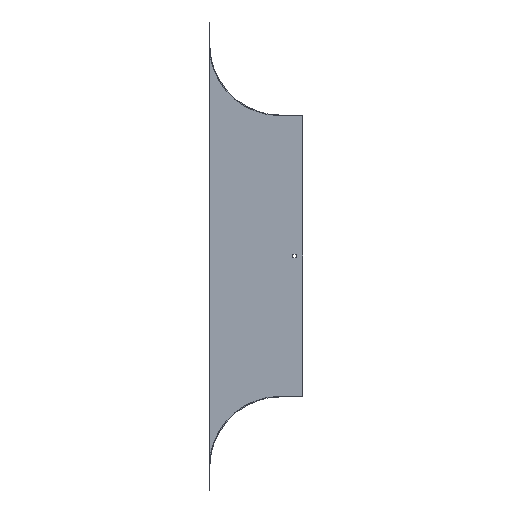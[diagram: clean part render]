
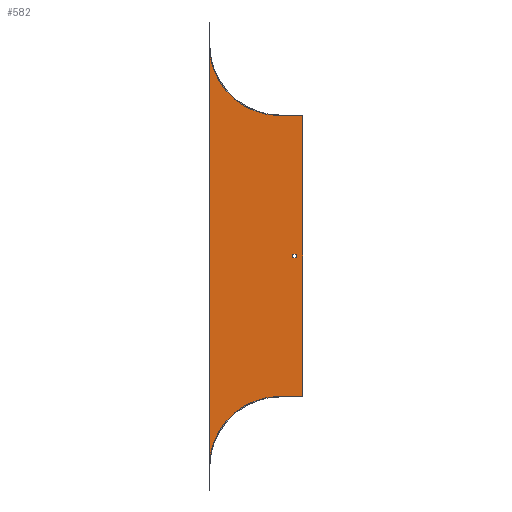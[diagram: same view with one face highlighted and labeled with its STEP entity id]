
A CAD part, front view. The second image highlights one B-rep face of the part: STEP entity #582.
In plain terms, the highlighted planar face has unit normal (0, -1, 0).
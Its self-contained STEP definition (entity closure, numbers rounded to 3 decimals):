
#3 = VECTOR ( 'NONE', #542, 1000. ) ;
#14 = EDGE_CURVE ( 'NONE', #289, #285, #309, .T. ) ;
#29 = VERTEX_POINT ( 'NONE', #452 ) ;
#33 = DIRECTION ( 'NONE',  ( 1., 0., 0. ) ) ;
#36 = EDGE_CURVE ( 'NONE', #585, #127, #178, .T. ) ;
#49 = ORIENTED_EDGE ( 'NONE', *, *, #421, .F. ) ;
#60 = ORIENTED_EDGE ( 'NONE', *, *, #254, .F. ) ;
#61 = FACE_BOUND ( 'NONE', #551, .T. ) ;
#67 = CARTESIAN_POINT ( 'NONE',  ( 21.5, -1., -374. ) ) ;
#74 = CARTESIAN_POINT ( 'NONE',  ( 0., -1., 0. ) ) ;
#93 = CARTESIAN_POINT ( 'NONE',  ( 28.5, -1., -380. ) ) ;
#115 = DIRECTION ( 'NONE',  ( 0., 0., -1. ) ) ;
#126 = DIRECTION ( 'NONE',  ( 0., 0., 1. ) ) ;
#127 = VERTEX_POINT ( 'NONE', #500 ) ;
#139 = LINE ( 'NONE', #725, #250 ) ;
#140 = LINE ( 'NONE', #432, #3 ) ;
#178 = LINE ( 'NONE', #509, #303 ) ;
#179 = VERTEX_POINT ( 'NONE', #67 ) ;
#180 = EDGE_CURVE ( 'NONE', #528, #179, #249, .T. ) ;
#187 = CARTESIAN_POINT ( 'NONE',  ( -127., -1., -794. ) ) ;
#212 = CARTESIAN_POINT ( 'NONE',  ( 21.5, -1., -380. ) ) ;
#213 = VERTEX_POINT ( 'NONE', #575 ) ;
#215 = ORIENTED_EDGE ( 'NONE', *, *, #180, .F. ) ;
#218 = ORIENTED_EDGE ( 'NONE', *, *, #433, .F. ) ;
#226 = AXIS2_PLACEMENT_3D ( 'NONE', #621, #253, #476 ) ;
#234 = DIRECTION ( 'NONE',  ( 0., 0., -1. ) ) ;
#235 = CARTESIAN_POINT ( 'NONE',  ( 0., -1., -374. ) ) ;
#249 = LINE ( 'NONE', #235, #272 ) ;
#250 = VECTOR ( 'NONE', #541, 1000. ) ;
#251 = VECTOR ( 'NONE', #508, 1000. ) ;
#252 = CARTESIAN_POINT ( 'NONE',  ( 0., -1., -380. ) ) ;
#253 = DIRECTION ( 'NONE',  ( 0., -1., 0. ) ) ;
#254 = EDGE_CURVE ( 'NONE', #29, #612, #689, .T. ) ;
#272 = VECTOR ( 'NONE', #527, 1000. ) ;
#275 = CARTESIAN_POINT ( 'NONE',  ( 0., -1., -627. ) ) ;
#276 = EDGE_CURVE ( 'NONE', #127, #446, #140, .T. ) ;
#285 = VERTEX_POINT ( 'NONE', #93 ) ;
#289 = VERTEX_POINT ( 'NONE', #212 ) ;
#293 = LINE ( 'NONE', #512, #251 ) ;
#303 = VECTOR ( 'NONE', #677, 1000. ) ;
#309 = LINE ( 'NONE', #252, #396 ) ;
#312 = CIRCLE ( 'NONE', #630, 127. ) ;
#326 = ORIENTED_EDGE ( 'NONE', *, *, #276, .F. ) ;
#353 = ORIENTED_EDGE ( 'NONE', *, *, #36, .F. ) ;
#382 = ORIENTED_EDGE ( 'NONE', *, *, #591, .F. ) ;
#394 = DIRECTION ( 'NONE',  ( 1., 0., 0. ) ) ;
#396 = VECTOR ( 'NONE', #33, 1000. ) ;
#421 = EDGE_CURVE ( 'NONE', #213, #585, #503, .T. ) ;
#429 = EDGE_CURVE ( 'NONE', #612, #213, #543, .T. ) ;
#432 = CARTESIAN_POINT ( 'NONE',  ( 0., -1., -627. ) ) ;
#433 = EDGE_CURVE ( 'NONE', #179, #289, #139, .T. ) ;
#446 = VERTEX_POINT ( 'NONE', #275 ) ;
#452 = CARTESIAN_POINT ( 'NONE',  ( -127., -1., -754. ) ) ;
#457 = CARTESIAN_POINT ( 'NONE',  ( 0., -1., -754. ) ) ;
#466 = AXIS2_PLACEMENT_3D ( 'NONE', #74, #571, #115 ) ;
#475 = EDGE_LOOP ( 'NONE', ( #382, #326, #353, #49, #515, #60 ) ) ;
#476 = DIRECTION ( 'NONE',  ( 0., 0., -1. ) ) ;
#485 = VECTOR ( 'NONE', #126, 1000. ) ;
#500 = CARTESIAN_POINT ( 'NONE',  ( 40., -1., -627. ) ) ;
#503 = LINE ( 'NONE', #726, #605 ) ;
#508 = DIRECTION ( 'NONE',  ( 0., 0., 1. ) ) ;
#509 = CARTESIAN_POINT ( 'NONE',  ( 40., -1., -126. ) ) ;
#512 = CARTESIAN_POINT ( 'NONE',  ( 28.5, -1., 0. ) ) ;
#515 = ORIENTED_EDGE ( 'NONE', *, *, #429, .F. ) ;
#516 = FACE_OUTER_BOUND ( 'NONE', #475, .T. ) ;
#519 = CARTESIAN_POINT ( 'NONE',  ( 40., -1., -127. ) ) ;
#527 = DIRECTION ( 'NONE',  ( -1., 0., 0. ) ) ;
#528 = VERTEX_POINT ( 'NONE', #709 ) ;
#541 = DIRECTION ( 'NONE',  ( 0., 0., -1. ) ) ;
#542 = DIRECTION ( 'NONE',  ( -1., 0., 0. ) ) ;
#543 = CIRCLE ( 'NONE', #226, 127. ) ;
#551 = EDGE_LOOP ( 'NONE', ( #218, #215, #664, #703 ) ) ;
#571 = DIRECTION ( 'NONE',  ( 0., -1., 0. ) ) ;
#575 = CARTESIAN_POINT ( 'NONE',  ( 0., -1., -127. ) ) ;
#582 = ADVANCED_FACE ( 'NONE', ( #61, #516 ), #683, .T. ) ;
#585 = VERTEX_POINT ( 'NONE', #519 ) ;
#591 = EDGE_CURVE ( 'NONE', #446, #29, #312, .T. ) ;
#605 = VECTOR ( 'NONE', #394, 1000. ) ;
#612 = VERTEX_POINT ( 'NONE', #687 ) ;
#621 = CARTESIAN_POINT ( 'NONE',  ( 0., -1., 0. ) ) ;
#630 = AXIS2_PLACEMENT_3D ( 'NONE', #457, #632, #234 ) ;
#632 = DIRECTION ( 'NONE',  ( 0., -1., 0. ) ) ;
#637 = EDGE_CURVE ( 'NONE', #285, #528, #293, .T. ) ;
#664 = ORIENTED_EDGE ( 'NONE', *, *, #637, .F. ) ;
#677 = DIRECTION ( 'NONE',  ( 0., 0., -1. ) ) ;
#683 = PLANE ( 'NONE',  #466 ) ;
#687 = CARTESIAN_POINT ( 'NONE',  ( -127., -1., 0. ) ) ;
#689 = LINE ( 'NONE', #187, #485 ) ;
#703 = ORIENTED_EDGE ( 'NONE', *, *, #14, .F. ) ;
#709 = CARTESIAN_POINT ( 'NONE',  ( 28.5, -1., -374. ) ) ;
#725 = CARTESIAN_POINT ( 'NONE',  ( 21.5, -1., 0. ) ) ;
#726 = CARTESIAN_POINT ( 'NONE',  ( 0., -1., -127. ) ) ;
